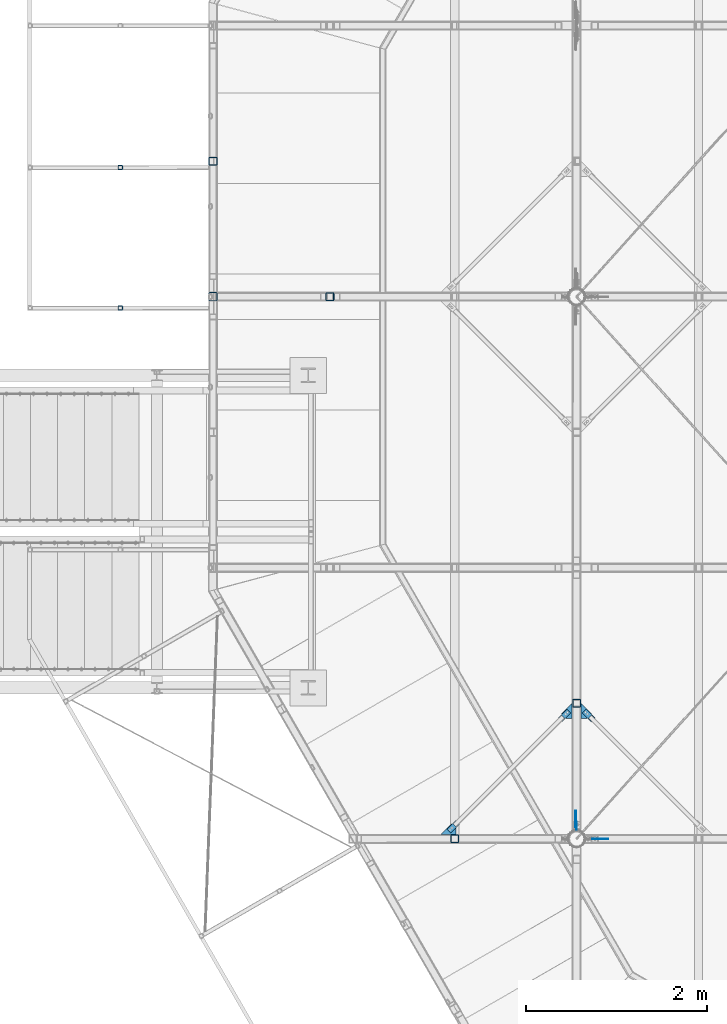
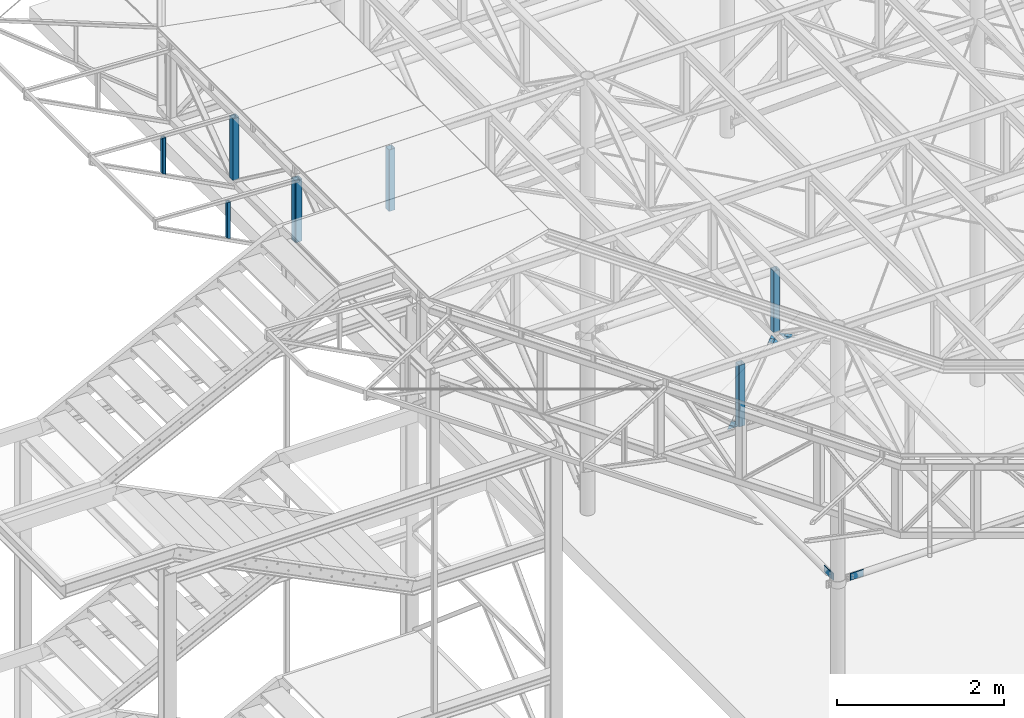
# One storey, part 73 of 132: 16 discrete accessories, 11 elements without a shape of their own.
"""IFC2X3 building model written with IfcOpenShell, lengths in millimetres."""

from ifc_helpers import new_model, si_unit, frame, origin_with_axes, origin_2d_with_axis, place, context, subcontext, project, spatial, polyline, hollow_rectangle, outline, extrude, clip, halfspace, material, type_object, element, aggregate, save


model = new_model("IFC2X3")

# Units and contexts
model_context = context("Model", 3, precision=1e-05, world=origin_with_axes())
body_context = subcontext(model_context, "Body", "Model", "MODEL_VIEW")
ifc_project = project(units=[si_unit("LENGTHUNIT", "METRE", prefix="MILLI"), si_unit("AREAUNIT", "SQUARE_METRE"), si_unit("VOLUMEUNIT", "CUBIC_METRE"), si_unit("MASSUNIT", "GRAM", prefix="KILO"), si_unit("TIMEUNIT", "SECOND"), si_unit("PLANEANGLEUNIT", "RADIAN"), si_unit("SOLIDANGLEUNIT", "STERADIAN"), si_unit("THERMODYNAMICTEMPERATUREUNIT", "DEGREE_CELSIUS"), si_unit("LUMINOUSINTENSITYUNIT", "LUMEN")], contexts=[model_context])

# Site, building, storey
site_placement = place(None, origin_with_axes())
site = spatial("IfcSite", under=ifc_project, at=site_placement, Name="Budowa", CompositionType="ELEMENT")
building_placement = place(site_placement, origin_with_axes())
building = spatial("IfcBuilding", under=site, at=building_placement, Name="Undefined", CompositionType="ELEMENT")
storey_placement = place(building_placement, origin_with_axes())
storey = spatial("IfcBuildingStorey", under=building, at=storey_placement, Name="Undefined", CompositionType="ELEMENT", Elevation=0.0)

# Assembly, discrete accessory
assembly_1_placement = place(storey_placement, origin_with_axes())
assembly_1 = element("IfcElementAssembly", 1, at=assembly_1_placement, inside=storey, Name="Steel Assembly", AssemblyPlace="NOTDEFINED", PredefinedType="RIGID_FRAME")
ifc_material = material(Name="STEEL/S235")
discrete_accessory_type_1 = type_object("IfcDiscreteAccessoryType", Name="BLACHA")
discrete_accessory_1_placement = place(assembly_1_placement, frame((4017.0000027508, 6127.90790548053, 10116.0003779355), z_axis=(1.0, 0.0, 0.0), x_axis=(0.0, 1.0, 0.0)))
discrete_accessory_1 = element("IfcDiscreteAccessory", 2, at=discrete_accessory_1_placement, type_object=discrete_accessory_type_1, material=ifc_material, Name="BLACHA", ObjectType="BL8*100", context=body_context, shape_type="SweptSolid", body=[
    extrude(outline(polyline([(0.0, -50.0), (0.0, 50.0), (180.0, 50.0), (180.0, -50.0), (0.0, -50.0)])), frame((0.0, 0.0, -4.0), z_axis=(0.0, 0.0, 1.0), x_axis=(1.0, 0.0, 0.0)), (0.0, 0.0, 1.0), 8.0),
])
aggregate(assembly_1, [discrete_accessory_1])

assembly_2_placement = place(storey_placement, origin_with_axes())
assembly_2 = element("IfcElementAssembly", 3, at=assembly_2_placement, inside=storey, Name="Steel Assembly", AssemblyPlace="NOTDEFINED", PredefinedType="RIGID_FRAME")
discrete_accessory_2_placement = place(assembly_2_placement, frame((4025.0000027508, 6097.99564351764, 10066.0003796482), z_axis=(-1.0, 0.0, 0.0), x_axis=(0.0, 0.0, 1.0)))
discrete_accessory_2 = element("IfcDiscreteAccessory", 4, at=discrete_accessory_2_placement, type_object=discrete_accessory_type_1, material=ifc_material, Name="BLACHA", ObjectType="BL8*90", context=body_context, shape_type="SweptSolid", body=[
    extrude(outline(polyline([(0.0, 0.0), (100.0, 0.0), (100.0, 89.9122619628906), (0.0, 89.9122619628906), (0.0, 0.0)])), frame((0.0, 0.0, -4.0), z_axis=(0.0, 0.0, 1.0), x_axis=(1.0, 0.0, 0.0)), (0.0, 0.0, 1.0), 8.0),
])
aggregate(assembly_2, [discrete_accessory_2])

assembly_3_placement = place(storey_placement, origin_with_axes())
assembly_3 = element("IfcElementAssembly", 5, at=assembly_3_placement, inside=storey, Name="Steel Assembly", AssemblyPlace="NOTDEFINED", PredefinedType="RIGID_FRAME")
discrete_accessory_3_placement = place(assembly_3_placement, frame((4198.13669406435, 5997.99999945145, 10116.0003779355), z_axis=(0.0, -1.0, 0.0), x_axis=(1.0, 0.0, 0.0)))
discrete_accessory_3 = element("IfcDiscreteAccessory", 6, at=discrete_accessory_3_placement, type_object=discrete_accessory_type_1, material=ifc_material, Name="BLACHA", ObjectType="BL8*100", context=body_context, shape_type="SweptSolid", body=[
    extrude(outline(polyline([(0.0, -50.0), (0.0, 50.0), (180.0, 50.0), (180.0, -50.0), (0.0, -50.0)])), frame((0.0, 0.0, -4.0), z_axis=(0.0, 0.0, 1.0), x_axis=(1.0, 0.0, 0.0)), (0.0, 0.0, 1.0), 8.0),
])
aggregate(assembly_3, [discrete_accessory_3])

assembly_4_placement = place(storey_placement, origin_with_axes())
assembly_4 = element("IfcElementAssembly", 7, at=assembly_4_placement, inside=storey, Name="Steel Assembly", AssemblyPlace="NOTDEFINED", PredefinedType="RIGID_FRAME")
discrete_accessory_4_placement = place(assembly_4_placement, frame((4230.42135803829, 7336.80504885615, 12830.0), z_axis=(0.0, 0.0, 1.0), x_axis=(-0.707106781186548, 0.707106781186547, 0.0)))
discrete_accessory_4 = element("IfcDiscreteAccessory", 8, at=discrete_accessory_4_placement, type_object=discrete_accessory_type_1, material=ifc_material, Name="BLACHA", ObjectType="BL6*60", context=body_context, shape_type="SweptSolid", body=[
    extrude(outline(polyline([(0.0, 0.0), (139.99999999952, -6.2755134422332e-10), (139.99999999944, 59.9999999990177), (0.0, 60.0), (-8.00355337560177e-11, 54.9999999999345), (49.9999999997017, 54.9999999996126), (49.9999999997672, 4.99999999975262), (-8.73114913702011e-11, 5.00000000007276), (0.0, 0.0)])), frame((0.0, 0.0, -3.0), z_axis=(0.0, 0.0, 1.0), x_axis=(1.0, 0.0, 0.0)), (0.0, 0.0, 1.0), 6.0),
])
aggregate(assembly_4, [discrete_accessory_4])

assembly_5_placement = place(storey_placement, origin_with_axes())
assembly_5 = element("IfcElementAssembly", 9, at=assembly_5_placement, inside=storey, Name="Steel Assembly", AssemblyPlace="NOTDEFINED", PredefinedType="RIGID_FRAME")
discrete_accessory_5_placement = place(assembly_5_placement, frame((4074.99999991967, 7499.29747478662, 12824.0), z_axis=(0.0, 0.0, 1.0), x_axis=(0.0, -1.0, 0.0)))
discrete_accessory_5 = element("IfcDiscreteAccessory", 10, at=discrete_accessory_5_placement, type_object=discrete_accessory_type_1, material=ifc_material, Name="BLACHA", ObjectType="BL6*117", context=body_context, shape_type="SweptSolid", body=[
    extrude(outline(polyline([(0.0, 0.0), (166.027954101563, 0.0), (166.027954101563, 67.0330123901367), (116.530487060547, 116.530487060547), (0.0, 0.0)])), frame((0.0, 0.0, -3.0), z_axis=(0.0, 0.0, 1.0), x_axis=(1.0, 0.0, 0.0)), (0.0, 0.0, 1.0), 6.0),
])

assembly_6_placement = place(storey_placement, origin_with_axes())
assembly_6 = element("IfcElementAssembly", 11, at=assembly_6_placement, inside=storey, Name="Steel Assembly", AssemblyPlace="NOTDEFINED", PredefinedType="RIGID_FRAME")
discrete_accessory_6_placement = place(assembly_6_placement, frame((2688.19495111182, 6205.42135816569, 12830.0), z_axis=(0.0, 0.0, 1.0), x_axis=(-0.70710678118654, -0.707106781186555, 0.0)))
discrete_accessory_6 = element("IfcDiscreteAccessory", 12, at=discrete_accessory_6_placement, type_object=discrete_accessory_type_1, material=ifc_material, Name="BLACHA", ObjectType="BL6*60", context=body_context, shape_type="SweptSolid", body=[
    extrude(outline(polyline([(0.0, 0.0), (139.99999999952, -6.2755134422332e-10), (139.99999999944, 59.9999999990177), (0.0, 60.0), (-8.00355337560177e-11, 54.9999999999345), (49.9999999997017, 54.9999999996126), (49.9999999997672, 4.99999999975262), (-8.73114913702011e-11, 5.00000000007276), (0.0, 0.0)])), frame((0.0, 0.0, -3.0), z_axis=(0.0, 0.0, 1.0), x_axis=(1.0, 0.0, 0.0)), (0.0, 0.0, 1.0), 6.0),
])

assembly_7_placement = place(storey_placement, origin_with_axes())
assembly_7 = element("IfcElementAssembly", 13, at=assembly_7_placement, inside=storey, Name="Steel Assembly", AssemblyPlace="NOTDEFINED", PredefinedType="RIGID_FRAME")
discrete_accessory_7_placement = place(assembly_7_placement, frame((2525.70252518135, 6050.00000004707, 12824.0), z_axis=(0.0, 0.0, 1.0), x_axis=(1.0, 0.0, 0.0)))
discrete_accessory_7 = element("IfcDiscreteAccessory", 14, at=discrete_accessory_7_placement, type_object=discrete_accessory_type_1, material=ifc_material, Name="BLACHA", ObjectType="BL6*117", context=body_context, shape_type="SweptSolid", body=[
    extrude(outline(polyline([(0.0, 0.0), (166.027954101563, 0.0), (166.027954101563, 67.0330123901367), (116.530487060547, 116.530487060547), (0.0, 0.0)])), frame((0.0, 0.0, -3.0), z_axis=(0.0, 0.0, 1.0), x_axis=(1.0, 0.0, 0.0)), (0.0, 0.0, 1.0), 6.0),
])

# Discrete accessory
discrete_accessory_8_placement = place(assembly_6_placement, frame((3862.00504865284, 7294.37864196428, 12830.0), z_axis=(0.0, 0.0, 1.0), x_axis=(0.707106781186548, 0.707106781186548, 0.0)))
discrete_accessory_8 = element("IfcDiscreteAccessory", 15, at=discrete_accessory_8_placement, type_object=discrete_accessory_type_1, material=ifc_material, Name="BLACHA", ObjectType="BL6*60", context=body_context, shape_type="SweptSolid", body=[
    extrude(outline(polyline([(0.0, 0.0), (139.99999999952, -6.2755134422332e-10), (139.99999999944, 59.9999999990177), (0.0, 60.0), (-8.00355337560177e-11, 54.9999999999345), (49.9999999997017, 54.9999999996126), (49.9999999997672, 4.99999999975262), (-8.73114913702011e-11, 5.00000000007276), (0.0, 0.0)])), frame((0.0, 0.0, -3.0), z_axis=(0.0, 0.0, 1.0), x_axis=(1.0, 0.0, 0.0)), (0.0, 0.0, 1.0), 6.0),
])

aggregate(assembly_6, [discrete_accessory_6, discrete_accessory_8])

discrete_accessory_9_placement = place(assembly_5_placement, frame((3974.99999991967, 7333.26951683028, 12824.0), z_axis=(0.0, 0.0, 1.0), x_axis=(0.0, 1.0, 0.0)))
discrete_accessory_9 = element("IfcDiscreteAccessory", 16, at=discrete_accessory_9_placement, type_object=discrete_accessory_type_1, material=ifc_material, Name="BLACHA", ObjectType="BL6*117", context=body_context, shape_type="SweptSolid", body=[
    extrude(outline(polyline([(0.0, 0.0), (166.027954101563, 0.0), (49.4974746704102, 116.530487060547), (0.0, 67.0330123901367), (0.0, 0.0)])), frame((0.0, 0.0, -3.0), z_axis=(0.0, 0.0, 1.0), x_axis=(1.0, 0.0, 0.0)), (0.0, 0.0, 1.0), 6.0),
])

# Assembly, discrete accessory
assembly_8_placement = place(storey_placement, origin_with_axes())
assembly_8 = element("IfcElementAssembly", 17, at=assembly_8_placement, inside=storey, Name="Steel Assembly", AssemblyPlace="NOTDEFINED", PredefinedType="RIGID_FRAME")
discrete_accessory_type_2 = type_object("IfcDiscreteAccessoryType", Name="BEAM")
discrete_accessory_10_placement = place(assembly_8_placement, frame((-1025.0003815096, 11875.0000000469, 13878.9400283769), z_axis=(0.0, 1.0, 0.0), x_axis=(0.0, 0.0, -1.0)))
discrete_accessory_10 = element("IfcDiscreteAccessory", 18, at=discrete_accessory_10_placement, type_object=discrete_accessory_type_2, material=ifc_material, Name="BEAM", ObjectType="SHS50*4", context=body_context, shape_type="Clipping", body=[
    clip(clip(extrude(hollow_rectangle(XDim=50.0, YDim=50.0, WallThickness=4.0, InnerFilletRadius=4.0, OuterFilletRadius=8.0, at=origin_2d_with_axis()), frame((545.085010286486, 0.0, 0.0), z_axis=(-1.0, 0.0, 0.0), x_axis=(0.0, -1.0, 0.0)), (0.0, 0.0, 1.0), 559.36), halfspace(frame((536.667324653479, -11.620388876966, 1000.0), z_axis=(-0.885407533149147, -0.464815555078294, 0.0), x_axis=(0.464815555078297, -0.885407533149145, 0.0)), True)), halfspace(frame((0.185048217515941, 1.24844042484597, 1000.0), z_axis=(0.998752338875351, 0.0499376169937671, 0.0), x_axis=(-0.0499376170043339, 0.998752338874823, 2.09020387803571e-11)), True)),
])
aggregate(assembly_8, [discrete_accessory_10])

assembly_9_placement = place(storey_placement, origin_with_axes())
assembly_9 = element("IfcElementAssembly", 19, at=assembly_9_placement, inside=storey, Name="Steel Assembly", AssemblyPlace="NOTDEFINED", PredefinedType="RIGID_FRAME")
discrete_accessory_11_placement = place(assembly_9_placement, frame((-1025.0003815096, 13430.0000000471, 13878.9400283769), z_axis=(0.0, 1.0, 0.0), x_axis=(0.0, 0.0, -1.0)))
discrete_accessory_11 = element("IfcDiscreteAccessory", 20, at=discrete_accessory_11_placement, type_object=discrete_accessory_type_2, material=ifc_material, Name="BEAM", ObjectType="SHS50*4", context=body_context, shape_type="Clipping", body=[
    clip(clip(extrude(hollow_rectangle(XDim=50.0, YDim=50.0, WallThickness=4.0, InnerFilletRadius=4.0, OuterFilletRadius=8.0, at=origin_2d_with_axis()), frame((545.085010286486, 0.0, 0.0), z_axis=(-1.0, 0.0, 0.0), x_axis=(0.0, -1.0, 0.0)), (0.0, 0.0, 1.0), 559.36), halfspace(frame((536.667324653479, -11.620388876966, 1000.0), z_axis=(-0.885407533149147, -0.464815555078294, 0.0), x_axis=(0.464815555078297, -0.885407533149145, 0.0)), True)), halfspace(frame((0.185048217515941, 1.24844042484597, 1000.0), z_axis=(0.998752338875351, 0.0499376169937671, 0.0), x_axis=(-0.0499376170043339, 0.998752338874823, 2.09020387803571e-11)), True)),
])
aggregate(assembly_9, [discrete_accessory_11])

assembly_10_placement = place(storey_placement, origin_with_axes())
assembly_10 = element("IfcElementAssembly", 21, at=assembly_10_placement, inside=storey, Name="Steel Assembly", AssemblyPlace="NOTDEFINED", PredefinedType="RIGID_FRAME")
discrete_accessory_12_placement = place(assembly_10_placement, frame((0.0999999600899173, 13500.0000000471, 12880.0), z_axis=(0.0, 0.0, 1.0), x_axis=(0.0, 1.0, 0.0)))
discrete_accessory_12 = element("IfcDiscreteAccessory", 22, at=discrete_accessory_12_placement, type_object=discrete_accessory_type_2, material=ifc_material, Name="BEAM", ObjectType="SHS90*4", context=body_context, shape_type="Clipping", body=[
    clip(clip(extrude(hollow_rectangle(XDim=90.0, YDim=90.0, WallThickness=4.0, InnerFilletRadius=4.0, OuterFilletRadius=8.0, at=origin_2d_with_axis()), frame((0.0, 0.0, 900.0), z_axis=(0.0, 0.0, -1.0), x_axis=(0.0, 1.0, 0.0)), (0.0, 0.0, 1.0), 900.0), halfspace(frame((1000.0, 0.0, 900.0), z_axis=(0.0, 0.0, -1.0), x_axis=(0.0, 1.0, 0.0)), True)), halfspace(frame((1000.0, 0.0, 0.0), z_axis=(0.0, 0.0, 1.0), x_axis=(0.0, -1.0, 0.0)), True)),
])
aggregate(assembly_10, [discrete_accessory_12])

# Discrete accessory
discrete_accessory_13_placement = place(assembly_7_placement, frame((2676.09999980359, 6000.00000004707, 13780.0), z_axis=(1.0, 0.0, 0.0), x_axis=(0.0, 0.0, -1.0)))
discrete_accessory_13 = element("IfcDiscreteAccessory", 23, at=discrete_accessory_13_placement, type_object=discrete_accessory_type_2, material=ifc_material, Name="BEAM", ObjectType="SHS90*6", context=body_context, shape_type="Clipping", body=[
    clip(clip(extrude(hollow_rectangle(XDim=90.0, YDim=90.0, WallThickness=6.0, InnerFilletRadius=6.0, OuterFilletRadius=12.0, at=origin_2d_with_axis()), frame((900.0, 0.0, 0.0), z_axis=(-1.0, 0.0, 0.0), x_axis=(0.0, -1.0, 0.0)), (0.0, 0.0, 1.0), 900.0), halfspace(frame((900.0, 0.0, 1000.0), z_axis=(-1.0, 0.0, 0.0), x_axis=(0.0, -1.0, 0.0)), True)), halfspace(frame((0.0, 0.0, 1000.0), z_axis=(1.0, 0.0, 0.0), x_axis=(0.0, 1.0, 0.0)), True)),
])

aggregate(assembly_7, [discrete_accessory_7, discrete_accessory_13])

# Assembly, discrete accessories
assembly_11_placement = place(storey_placement, origin_with_axes())
assembly_11 = element("IfcElementAssembly", 24, at=assembly_11_placement, inside=storey, Name="Steel Assembly", AssemblyPlace="NOTDEFINED", PredefinedType="RIGID_FRAME")
discrete_accessory_14_placement = place(assembly_11_placement, frame((1295.09999996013, 12000.000000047, 13780.0), z_axis=(1.0, 0.0, 0.0), x_axis=(0.0, 0.0, -1.0)))
discrete_accessory_14 = element("IfcDiscreteAccessory", 25, at=discrete_accessory_14_placement, type_object=discrete_accessory_type_2, material=ifc_material, Name="BEAM", ObjectType="SHS90*6", context=body_context, shape_type="Clipping", body=[
    clip(clip(extrude(hollow_rectangle(XDim=90.0, YDim=90.0, WallThickness=6.0, InnerFilletRadius=6.0, OuterFilletRadius=12.0, at=origin_2d_with_axis()), frame((900.0, 0.0, 0.0), z_axis=(-1.0, 0.0, 0.0), x_axis=(0.0, -1.0, 0.0)), (0.0, 0.0, 1.0), 900.0), halfspace(frame((900.0, 0.0, 1000.0), z_axis=(-1.0, 0.0, 0.0), x_axis=(0.0, -1.0, 0.0)), True)), halfspace(frame((0.0, 0.0, 1000.0), z_axis=(1.0, 0.0, 0.0), x_axis=(0.0, 1.0, 0.0)), True)),
])
discrete_accessory_15_placement = place(assembly_11_placement, frame((0.0999999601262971, 12000.000000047, 13780.0), z_axis=(1.0, 0.0, 0.0), x_axis=(0.0, 0.0, -1.0)))
discrete_accessory_15 = element("IfcDiscreteAccessory", 26, at=discrete_accessory_15_placement, type_object=discrete_accessory_type_2, material=ifc_material, Name="BEAM", ObjectType="SHS100*8", context=body_context, shape_type="Clipping", body=[
    clip(clip(extrude(hollow_rectangle(XDim=100.0, YDim=100.0, WallThickness=8.0, InnerFilletRadius=8.0, OuterFilletRadius=16.0, at=origin_2d_with_axis()), frame((900.0, 0.0, 0.0), z_axis=(-1.0, 0.0, 0.0), x_axis=(0.0, -1.0, 0.0)), (0.0, 0.0, 1.0), 900.0), halfspace(frame((900.0, 0.0, 1000.0), z_axis=(-1.0, 0.0, 0.0), x_axis=(0.0, -1.0, 0.0)), True)), halfspace(frame((0.0, 0.0, 1000.0), z_axis=(1.0, 0.0, 0.0), x_axis=(0.0, 1.0, 0.0)), True)),
])
aggregate(assembly_11, [discrete_accessory_14, discrete_accessory_15])

# Discrete accessory
discrete_accessory_16_placement = place(assembly_5_placement, frame((4024.99999991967, 7500.00000004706, 13780.0), z_axis=(1.0, 0.0, 0.0), x_axis=(0.0, 0.0, -1.0)))
discrete_accessory_16 = element("IfcDiscreteAccessory", 27, at=discrete_accessory_16_placement, type_object=discrete_accessory_type_2, material=ifc_material, Name="BEAM", ObjectType="SHS90*6", context=body_context, shape_type="Clipping", body=[
    clip(clip(extrude(hollow_rectangle(XDim=90.0, YDim=90.0, WallThickness=6.0, InnerFilletRadius=6.0, OuterFilletRadius=12.0, at=origin_2d_with_axis()), frame((900.0, 0.0, 0.0), z_axis=(-1.0, 0.0, 0.0), x_axis=(0.0, -1.0, 0.0)), (0.0, 0.0, 1.0), 900.0), halfspace(frame((900.0, 0.0, 1000.0), z_axis=(-1.0, 0.0, 0.0), x_axis=(0.0, -1.0, 0.0)), True)), halfspace(frame((0.0, 0.0, 1000.0), z_axis=(1.0, 0.0, 0.0), x_axis=(0.0, 1.0, 0.0)), True)),
])

aggregate(assembly_5, [discrete_accessory_5, discrete_accessory_9, discrete_accessory_16])

save(model, "model.ifc")
